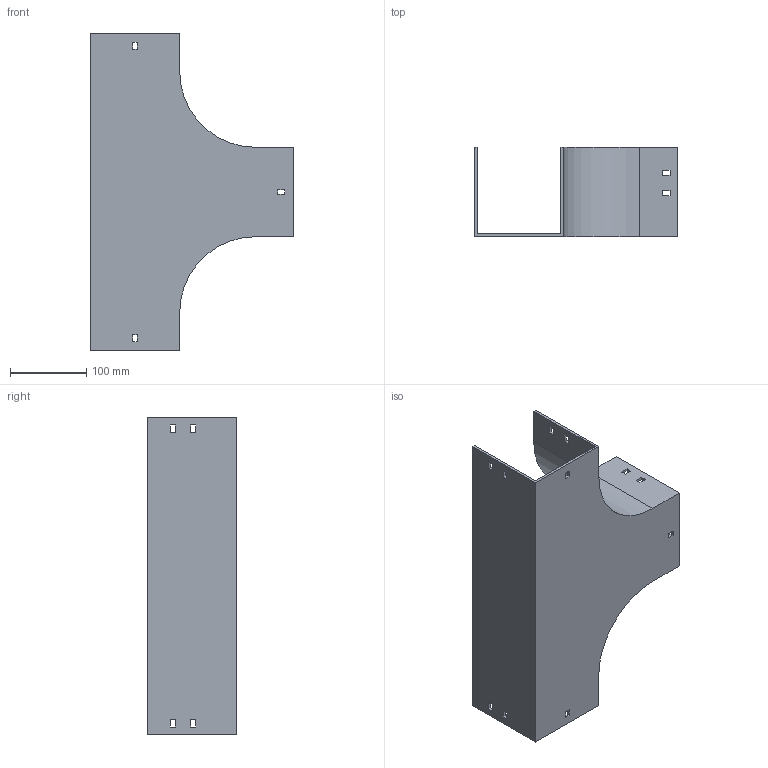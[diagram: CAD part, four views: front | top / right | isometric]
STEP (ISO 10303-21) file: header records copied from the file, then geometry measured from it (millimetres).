
FILE_DESCRIPTION (( 'STEP AP214' ), '1' );
FILE_NAME ('15B1J117.step', '2025-02-21T09:53:33', ( '' ), ( '' ), 'SwSTEP 2.0', 'SolidWorks 2023', '' );
FILE_SCHEMA (( 'AUTOMOTIVE_DESIGN' ));
Length unit declared in the file: millimetre
Products named in the file (1): 15B1J117
Bounding box: 267.5 x 117.5 x 417.5 mm (x, y, z)
Volume: 618777.9 mm3; surface area: 362229.4 mm2
Topology: 1 solids, 1 shells, 82 faces, 240 edges, 160 vertices
Faces by surface type: plane 78, cylinder 4
Entity records: 2755 total; most frequent: CARTESIAN_POINT 483, ORIENTED_EDGE 480, DIRECTION 414, EDGE_CURVE 240, VECTOR 232, LINE 232, VERTEX_POINT 160, EDGE_LOOP 112
